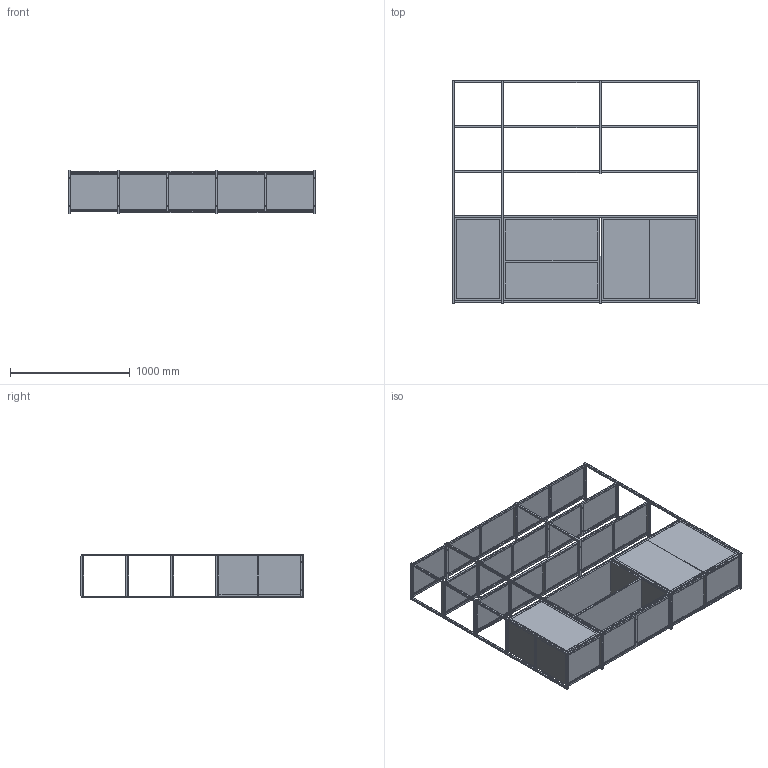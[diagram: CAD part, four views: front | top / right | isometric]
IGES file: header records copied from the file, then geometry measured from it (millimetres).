
Start section: SolidWorks IGES file using analytic representation for surfaces
Global section: file name: C:\Users\hcaixa\Documents\Gabinete Tecnico\72_produtos cliente\Timsteel\Mesas\Mesas Escritorio Operativas\Sistema Level Timsteel\AREIA-STUDIO FURNITURE CONCEPT\IGS\MODULO COM ARMARIO 2000 H1800.IGS; native system: SolidWorks 2014; preprocessor: SolidWorks 2014; author: hcaixa; date: 190703.123105; units: millimetre
Bounding box: 2066 x 1862.8 x 367 mm (x, y, z)
Surface area: 17080029 mm2 (no closed solid volume)
Topology: 0 solids, 0 shells, 2179 faces, 26888 edges, 26824 vertices
Faces by surface type: revolution 1144, bspline 1035
